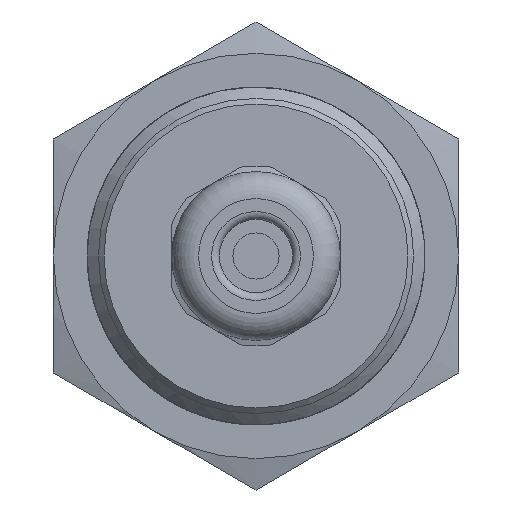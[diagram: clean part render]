
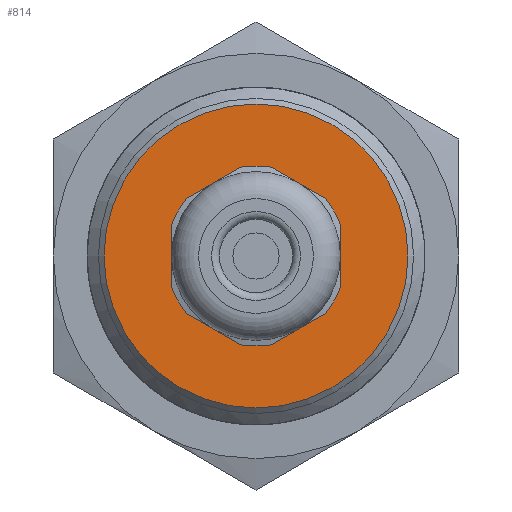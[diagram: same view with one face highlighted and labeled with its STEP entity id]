
A CAD part, front view. The second image highlights one B-rep face of the part: STEP entity #814.
In plain terms, the highlighted planar face has unit normal (0, -1, 0).
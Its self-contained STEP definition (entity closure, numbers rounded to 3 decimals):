
#507=FACE_BOUND('',#1072,.T.);
#508=FACE_BOUND('',#1073,.T.);
#552=PLANE('',#2478);
#620=LINE('',#21245,#682);
#621=LINE('',#21249,#683);
#622=LINE('',#21253,#684);
#623=LINE('',#21257,#685);
#624=LINE('',#21261,#686);
#625=LINE('',#21265,#687);
#682=VECTOR('',#2787,1.);
#683=VECTOR('',#2790,1.);
#684=VECTOR('',#2793,1.);
#685=VECTOR('',#2796,1.);
#686=VECTOR('',#2799,1.);
#687=VECTOR('',#2802,1.);
#814=ADVANCED_FACE('',(#507,#508),#552,.F.);
#1072=EDGE_LOOP('',(#1549,#1550,#1551,#1552,#1553,#1554,#1555,#1556,#1557,
#1558,#1559,#1560));
#1073=EDGE_LOOP('',(#1561));
#1172=CIRCLE('',#2471,8.);
#1173=CIRCLE('',#2472,8.);
#1174=CIRCLE('',#2473,8.);
#1175=CIRCLE('',#2474,8.);
#1176=CIRCLE('',#2475,8.);
#1177=CIRCLE('',#2476,8.);
#1178=CIRCLE('',#2477,13.5);
#1549=ORIENTED_EDGE('',*,*,#2121,.T.);
#1550=ORIENTED_EDGE('',*,*,#2122,.T.);
#1551=ORIENTED_EDGE('',*,*,#2123,.T.);
#1552=ORIENTED_EDGE('',*,*,#2124,.T.);
#1553=ORIENTED_EDGE('',*,*,#2125,.T.);
#1554=ORIENTED_EDGE('',*,*,#2126,.T.);
#1555=ORIENTED_EDGE('',*,*,#2127,.T.);
#1556=ORIENTED_EDGE('',*,*,#2128,.T.);
#1557=ORIENTED_EDGE('',*,*,#2129,.T.);
#1558=ORIENTED_EDGE('',*,*,#2130,.T.);
#1559=ORIENTED_EDGE('',*,*,#2131,.T.);
#1560=ORIENTED_EDGE('',*,*,#2132,.T.);
#1561=ORIENTED_EDGE('',*,*,#2133,.F.);
#1877=VERTEX_POINT('',#21243);
#1878=VERTEX_POINT('',#21244);
#1879=VERTEX_POINT('',#21246);
#1880=VERTEX_POINT('',#21248);
#1881=VERTEX_POINT('',#21250);
#1882=VERTEX_POINT('',#21252);
#1883=VERTEX_POINT('',#21254);
#1884=VERTEX_POINT('',#21256);
#1885=VERTEX_POINT('',#21258);
#1886=VERTEX_POINT('',#21260);
#1887=VERTEX_POINT('',#21262);
#1888=VERTEX_POINT('',#21264);
#1889=VERTEX_POINT('',#21267);
#2121=EDGE_CURVE('',#1877,#1878,#1172,.T.);
#2122=EDGE_CURVE('',#1878,#1879,#620,.T.);
#2123=EDGE_CURVE('',#1879,#1880,#1173,.T.);
#2124=EDGE_CURVE('',#1880,#1881,#621,.T.);
#2125=EDGE_CURVE('',#1881,#1882,#1174,.T.);
#2126=EDGE_CURVE('',#1882,#1883,#622,.T.);
#2127=EDGE_CURVE('',#1883,#1884,#1175,.T.);
#2128=EDGE_CURVE('',#1884,#1885,#623,.T.);
#2129=EDGE_CURVE('',#1885,#1886,#1176,.T.);
#2130=EDGE_CURVE('',#1886,#1887,#624,.T.);
#2131=EDGE_CURVE('',#1887,#1888,#1177,.T.);
#2132=EDGE_CURVE('',#1888,#1877,#625,.T.);
#2133=EDGE_CURVE('',#1889,#1889,#1178,.T.);
#2471=AXIS2_PLACEMENT_3D('',#21242,#2785,#2786);
#2472=AXIS2_PLACEMENT_3D('',#21247,#2788,#2789);
#2473=AXIS2_PLACEMENT_3D('',#21251,#2791,#2792);
#2474=AXIS2_PLACEMENT_3D('',#21255,#2794,#2795);
#2475=AXIS2_PLACEMENT_3D('',#21259,#2797,#2798);
#2476=AXIS2_PLACEMENT_3D('',#21263,#2800,#2801);
#2477=AXIS2_PLACEMENT_3D('',#21266,#2803,#2804);
#2478=AXIS2_PLACEMENT_3D('',#21268,#2805,#2806);
#2785=DIRECTION('',(0.,1.,0.));
#2786=DIRECTION('',(-0.991,0.,-0.135));
#2787=DIRECTION('',(0.866,0.,-0.5));
#2788=DIRECTION('',(0.,1.,0.));
#2789=DIRECTION('',(-0.991,0.,-0.135));
#2790=DIRECTION('',(0.,0.,-1.));
#2791=DIRECTION('',(0.,1.,0.));
#2792=DIRECTION('',(-0.991,0.,-0.135));
#2793=DIRECTION('',(-0.866,0.,-0.5));
#2794=DIRECTION('',(0.,1.,0.));
#2795=DIRECTION('',(-0.991,0.,-0.135));
#2796=DIRECTION('',(-0.866,0.,0.5));
#2797=DIRECTION('',(0.,1.,0.));
#2798=DIRECTION('',(-0.991,0.,-0.135));
#2799=DIRECTION('',(0.,0.,1.));
#2800=DIRECTION('',(0.,1.,0.));
#2801=DIRECTION('',(-0.991,0.,-0.135));
#2802=DIRECTION('',(0.866,0.,0.5));
#2803=DIRECTION('',(0.,1.,0.));
#2804=DIRECTION('',(1.,0.,0.));
#2805=DIRECTION('',(0.,1.,0.));
#2806=DIRECTION('',(1.,0.,0.));
#21242=CARTESIAN_POINT('',(0.,-44.,0.));
#21243=CARTESIAN_POINT('',(-1.339,-44.,7.887));
#21244=CARTESIAN_POINT('',(1.339,-44.,7.887));
#21245=CARTESIAN_POINT('',(1.339,-44.,7.887));
#21246=CARTESIAN_POINT('',(6.161,-44.,5.103));
#21247=CARTESIAN_POINT('',(0.,-44.,0.));
#21248=CARTESIAN_POINT('',(7.5,-44.,2.784));
#21249=CARTESIAN_POINT('',(7.5,-44.,2.784));
#21250=CARTESIAN_POINT('',(7.5,-44.,-2.784));
#21251=CARTESIAN_POINT('',(0.,-44.,0.));
#21252=CARTESIAN_POINT('',(6.161,-44.,-5.103));
#21253=CARTESIAN_POINT('',(6.161,-44.,-5.103));
#21254=CARTESIAN_POINT('',(1.339,-44.,-7.887));
#21255=CARTESIAN_POINT('',(0.,-44.,0.));
#21256=CARTESIAN_POINT('',(-1.339,-44.,-7.887));
#21257=CARTESIAN_POINT('',(-1.339,-44.,-7.887));
#21258=CARTESIAN_POINT('',(-6.161,-44.,-5.103));
#21259=CARTESIAN_POINT('',(0.,-44.,0.));
#21260=CARTESIAN_POINT('',(-7.5,-44.,-2.784));
#21261=CARTESIAN_POINT('',(-7.5,-44.,-2.784));
#21262=CARTESIAN_POINT('',(-7.5,-44.,2.784));
#21263=CARTESIAN_POINT('',(0.,-44.,0.));
#21264=CARTESIAN_POINT('',(-6.161,-44.,5.103));
#21265=CARTESIAN_POINT('',(-6.161,-44.,5.103));
#21266=CARTESIAN_POINT('',(0.,-44.,0.));
#21267=CARTESIAN_POINT('',(13.5,-44.,0.));
#21268=CARTESIAN_POINT('',(0.,-44.,-7.));
